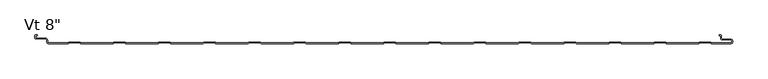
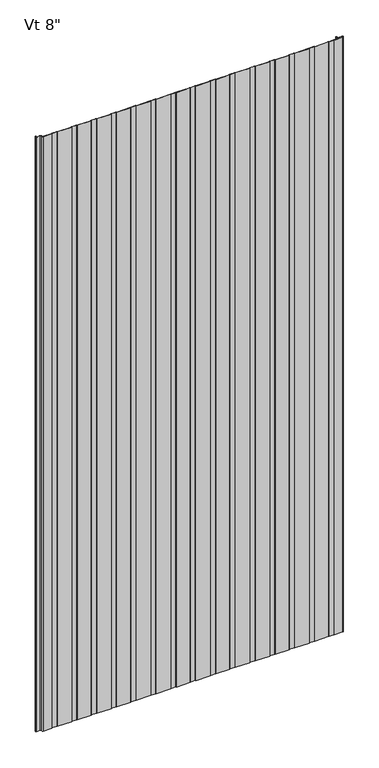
"""IFC4 building model written with IfcOpenShell, lengths in millimetres: plate geometry."""

from ifc_helpers import new_model, si_unit, frame, origin, place, context, project, spatial, polyline, circle_curve, source, transform, mapped, element, save
from ifc_brep_helpers import plane_surface, cylinder_surface, revolved_surface, advanced_brep


def plate_3660ced9(model_context):
    return source(origin(), model_context, "Body", "AdvancedBrep", [
        advanced_brep(
        [(390.6883592, -203.2, 2400.0), (445.2678137, -203.2, 2400.0), (446.3403385, -202.0088405, 2400.0), (465.2384546, -202.0088405, 2400.0), (466.3109794, -203.2, 2400.0), (520.890434, -203.2, 2400.0), (521.9629588, -202.0088405, 2400.0), (540.8610749, -202.0088405, 2400.0), (541.9335958, -203.1999956, 2400.0), (574.5475652, -203.1999956, 2400.0), (577.5248337, -200.2227271, 2400.0), (577.5248337, -199.1806285, 2400.0), (574.5475652, -196.20336, 2400.0), (560.3591801, -196.20336, 2400.0), (558.7713036, -194.6154834, 2400.0), (558.7713036, -190.2950653, 2400.0), (557.1304042, -188.7065979, 2400.0), (554.7857432, -188.7065979, 2400.0), (554.7857432, -189.7060718, 2400.0), (557.1628365, -189.7060718, 2400.0), (557.7713037, -190.2950653, 2400.0), (557.7713037, -194.6154834, 2400.0), (560.3591801, -197.20336, 2400.0), (574.5475652, -197.20336, 2400.0), (576.5248337, -199.1806285, 2400.0), (576.5248337, -200.2227271, 2400.0), (574.5475652, -202.1999956, 2400.0), (542.3760351, -202.1999956, 2400.0), (541.3035142, -201.0088405, 2400.0), (521.5205195, -201.0088405, 2400.0), (520.4479947, -202.2, 2400.0), (466.7534187, -202.2, 2400.0), (465.6808939, -201.0088405, 2400.0), (445.8978992, -201.0088405, 2400.0), (444.8253744, -202.2, 2400.0), (391.1307985, -202.2, 2400.0), (390.0582736, -201.0088405, 2400.0), (370.275279, -201.0088405, 2400.0), (369.2027541, -202.2, 2400.0), (315.5081782, -202.2, 2400.0), (314.4356534, -201.0088405, 2400.0), (294.6526587, -201.0088405, 2400.0), (293.5801339, -202.2, 2400.0), (239.885558, -202.2, 2400.0), (238.8130331, -201.0088405, 2400.0), (219.0300384, -201.0088405, 2400.0), (217.9575136, -202.2, 2400.0), (164.2629377, -202.2, 2400.0), (163.1904129, -201.0088405, 2400.0), (143.4074182, -201.0088405, 2400.0), (142.3348933, -202.2, 2400.0), (88.6403174, -202.2, 2400.0), (87.5677926, -201.0088405, 2400.0), (67.7847979, -201.0088405, 2400.0), (66.7122731, -202.2, 2400.0), (13.0176972, -202.2, 2400.0), (11.9451723, -201.0088405, 2400.0), (-7.8378224, -201.0088405, 2400.0), (-8.9103472, -202.2, 2400.0), (-62.6049231, -202.2, 2400.0), (-63.6774479, -201.0088405, 2400.0), (-83.4604426, -201.0088405, 2400.0), (-84.5329675, -202.2, 2400.0), (-138.2275434, -202.2, 2400.0), (-139.3000682, -201.0088405, 2400.0), (-159.0830629, -201.0088405, 2400.0), (-160.1555877, -202.2, 2400.0), (-213.8501636, -202.2, 2400.0), (-214.9226885, -201.0088405, 2400.0), (-234.7056831, -201.0088405, 2400.0), (-235.778208, -202.2, 2400.0), (-289.4727839, -202.2, 2400.0), (-290.5453087, -201.0088405, 2400.0), (-310.3283034, -201.0088405, 2400.0), (-311.4008282, -202.2, 2400.0), (-365.0954042, -202.2, 2400.0), (-366.167929, -201.0088405, 2400.0), (-385.9509237, -201.0088405, 2400.0), (-387.0234485, -202.2, 2400.0), (-440.7180244, -202.2, 2400.0), (-441.7905493, -201.0088405, 2400.0), (-461.5735439, -201.0088405, 2400.0), (-462.6460688, -202.2, 2400.0), (-516.3406447, -202.2, 2400.0), (-517.4131695, -201.0088405, 2400.0), (-537.1961642, -201.0088405, 2400.0), (-538.268689, -202.2, 2400.0), (-570.43528, -202.2, 2400.0), (-572.4125474, -200.2227096, 2400.0), (-572.4125474, -197.9308258, 2400.0), (-576.3898159, -193.9535573, 2400.0), (-591.9862419, -193.9535573, 2400.0), (-592.5741185, -193.3656807, 2400.0), (-592.5741185, -190.294132, 2400.0), (-591.9862419, -189.7062555, 2400.0), (-589.6312064, -189.7062555, 2400.0), (-589.6312064, -188.7062555, 2400.0), (-591.9862419, -188.7062555, 2400.0), (-593.5741185, -190.294132, 2400.0), (-593.5741185, -193.3656807, 2400.0), (-591.9862419, -194.9535573, 2400.0), (-576.3898159, -194.9535573, 2400.0), (-573.4125474, -197.9308258, 2400.0), (-573.4125474, -200.2227096, 2400.0), (-570.4352807, -203.1999782, 2400.0), (-537.8262497, -203.2, 2400.0), (-536.7537249, -202.0088405, 2400.0), (-517.8556088, -202.0088405, 2400.0), (-516.783084, -203.2, 2400.0), (-462.2036295, -203.2, 2400.0), (-461.1311046, -202.0088405, 2400.0), (-442.2329886, -202.0088405, 2400.0), (-441.1604637, -203.2, 2400.0), (-386.5810092, -203.2, 2400.0), (-385.5084844, -202.0088405, 2400.0), (-366.6103683, -202.0088405, 2400.0), (-365.5378435, -203.2, 2400.0), (-310.9583889, -203.2, 2400.0), (-309.8858641, -202.0088405, 2400.0), (-290.987748, -202.0088405, 2400.0), (-289.9152232, -203.2, 2400.0), (-235.3357687, -203.2, 2400.0), (-234.2632438, -202.0088405, 2400.0), (-215.3651278, -202.0088405, 2400.0), (-214.2926029, -203.2, 2400.0), (-159.7131484, -203.2, 2400.0), (-158.6406236, -202.0088405, 2400.0), (-139.7425075, -202.0088405, 2400.0), (-138.6699827, -203.2, 2400.0), (-84.0905281, -203.2, 2400.0), (-83.0180033, -202.0088405, 2400.0), (-64.1198873, -202.0088405, 2400.0), (-63.0473624, -203.2, 2400.0), (-8.4679079, -203.2, 2400.0), (-7.395383, -202.0088405, 2400.0), (11.502733, -202.0088405, 2400.0), (12.5752578, -203.2, 2400.0), (67.1547124, -203.2, 2400.0), (68.2272372, -202.0088405, 2400.0), (87.1253533, -202.0088405, 2400.0), (88.1978781, -203.2, 2400.0), (142.7773327, -203.2, 2400.0), (143.8498575, -202.0088405, 2400.0), (162.7479735, -202.0088405, 2400.0), (163.8204984, -203.2, 2400.0), (218.3999529, -203.2, 2400.0), (219.4724778, -202.0088405, 2400.0), (238.3705938, -202.0088405, 2400.0), (239.4431186, -203.2, 2400.0), (294.0225732, -203.2, 2400.0), (295.095098, -202.0088405, 2400.0), (313.9932141, -202.0088405, 2400.0), (315.0657389, -203.2, 2400.0), (369.6451934, -203.2, 2400.0), (370.7177183, -202.0088405, 2400.0), (389.6158343, -202.0088405, 2400.0), (390.6883592, -203.2, 0.0), (389.6158343, -202.0088405, 0.0), (370.7177183, -202.0088405, 0.0), (369.6451934, -203.2, 0.0), (315.0657389, -203.2, 0.0), (313.9932141, -202.0088405, 0.0), (295.095098, -202.0088405, 0.0), (294.0225732, -203.2, 0.0), (239.4431186, -203.2, 0.0), (238.3705938, -202.0088405, 0.0), (219.4724778, -202.0088405, 0.0), (218.3999529, -203.2, 0.0), (163.8204984, -203.2, 0.0), (162.7479735, -202.0088405, 0.0), (143.8498575, -202.0088405, 0.0), (142.7773327, -203.2, 0.0), (88.1978781, -203.2, 0.0), (87.1253533, -202.0088405, 0.0), (68.2272372, -202.0088405, 0.0), (67.1547124, -203.2, 0.0), (12.5752578, -203.2, 0.0), (11.502733, -202.0088405, 0.0), (-7.395383, -202.0088405, 0.0), (-8.4679079, -203.2, 0.0), (-63.0473624, -203.2, 0.0), (-64.1198873, -202.0088405, 0.0), (-83.0180033, -202.0088405, 0.0), (-84.0905281, -203.2, 0.0), (-138.6699827, -203.2, 0.0), (-139.7425075, -202.0088405, 0.0), (-158.6406236, -202.0088405, 0.0), (-159.7131484, -203.2, 0.0), (-214.2926029, -203.2, 0.0), (-215.3651278, -202.0088405, 0.0), (-234.2632438, -202.0088405, 0.0), (-235.3357687, -203.2, 0.0), (-289.9152232, -203.2, 0.0), (-290.987748, -202.0088405, 0.0), (-309.8858641, -202.0088405, 0.0), (-310.9583889, -203.2, 0.0), (-365.5378435, -203.2, 0.0), (-366.6103683, -202.0088405, 0.0), (-385.5084844, -202.0088405, 0.0), (-386.5810092, -203.2, 0.0), (-441.1604637, -203.2, 0.0), (-442.2329886, -202.0088405, 0.0), (-461.1311046, -202.0088405, 0.0), (-462.2036295, -203.2, 0.0), (-516.783084, -203.2, 0.0), (-517.8556088, -202.0088405, 0.0), (-536.7537249, -202.0088405, 0.0), (-537.8262497, -203.2, 0.0), (-570.4352807, -203.2, 0.0), (-573.4125474, -200.2227096, 0.0), (-573.4125474, -197.9308258, 0.0), (-576.3898159, -194.9535573, 0.0), (-591.9862419, -194.9535573, 0.0), (-593.5741185, -193.3656807, 0.0), (-593.5741185, -190.294132, 0.0), (-591.9862419, -188.7062555, 0.0), (-589.6312064, -188.7062555, 0.0), (-589.6312064, -189.7062555, 0.0), (-591.9862419, -189.7062555, 0.0), (-592.5741185, -190.294132, 0.0), (-592.5741185, -193.3656807, 0.0), (-591.9862419, -193.9535573, 0.0), (-576.3898159, -193.9535573, 0.0), (-572.4125474, -197.9308258, 0.0), (-572.4125474, -200.2227096, 0.0), (-570.43528, -202.1999782, 0.0), (-538.268689, -202.2, 0.0), (-537.1961642, -201.0088405, 0.0), (-517.4131695, -201.0088405, 0.0), (-516.3406447, -202.2, 0.0), (-462.6460688, -202.2, 0.0), (-461.5735439, -201.0088405, 0.0), (-441.7905493, -201.0088405, 0.0), (-440.7180244, -202.2, 0.0), (-387.0234485, -202.2, 0.0), (-385.9509237, -201.0088405, 0.0), (-366.167929, -201.0088405, 0.0), (-365.0954042, -202.2, 0.0), (-311.4008282, -202.2, 0.0), (-310.3283034, -201.0088405, 0.0), (-290.5453087, -201.0088405, 0.0), (-289.4727839, -202.2, 0.0), (-235.778208, -202.2, 0.0), (-234.7056831, -201.0088405, 0.0), (-214.9226885, -201.0088405, 0.0), (-213.8501636, -202.2, 0.0), (-160.1555877, -202.2, 0.0), (-159.0830629, -201.0088405, 0.0), (-139.3000682, -201.0088405, 0.0), (-138.2275434, -202.2, 0.0), (-84.5329675, -202.2, 0.0), (-83.4604426, -201.0088405, 0.0), (-63.6774479, -201.0088405, 0.0), (-62.6049231, -202.2, 0.0), (-8.9103472, -202.2, 0.0), (-7.8378224, -201.0088405, 0.0), (11.9451723, -201.0088405, 0.0), (13.0176972, -202.2, 0.0), (66.7122731, -202.2, 0.0), (67.7847979, -201.0088405, 0.0), (87.5677926, -201.0088405, 0.0), (88.6403174, -202.2, 0.0), (142.3348933, -202.2, 0.0), (143.4074182, -201.0088405, 0.0), (163.1904129, -201.0088405, 0.0), (164.2629377, -202.2, 0.0), (217.9575136, -202.2, 0.0), (219.0300384, -201.0088405, 0.0), (238.8130331, -201.0088405, 0.0), (239.885558, -202.2, 0.0), (293.5801339, -202.2, 0.0), (294.6526587, -201.0088405, 0.0), (314.4356534, -201.0088405, 0.0), (315.5081782, -202.2, 0.0), (369.2027541, -202.2, 0.0), (370.275279, -201.0088405, 0.0), (390.0582736, -201.0088405, 0.0), (391.1307985, -202.2, 0.0), (444.8253744, -202.2, 0.0), (445.8978992, -201.0088405, 0.0), (465.6808939, -201.0088405, 0.0), (466.7534187, -202.2, 0.0), (520.4479947, -202.2, 0.0), (521.5205195, -201.0088405, 0.0), (541.3035142, -201.0088405, 0.0), (542.3760351, -202.1999956, 0.0), (574.5475652, -202.1999956, 0.0), (576.5248337, -200.2227271, 0.0), (576.5248337, -199.1806285, 0.0), (574.5475652, -197.20336, 0.0), (560.3591801, -197.20336, 0.0), (557.7713036, -194.6154834, 0.0), (557.7713037, -190.2950653, 0.0), (557.1628365, -189.7060718, 0.0), (554.7857432, -189.7060718, 0.0), (554.7857432, -188.7065979, 0.0), (557.1304042, -188.7065979, 0.0), (558.7713037, -190.2950653, 0.0), (558.7713036, -194.6154834, 0.0), (560.3591801, -196.20336, 0.0), (574.5475652, -196.20336, 0.0), (577.5248337, -199.1806285, 0.0), (577.5248337, -200.2227271, 0.0), (574.5475652, -203.1999956, 0.0), (541.9335958, -203.1999956, 0.0), (540.8610749, -202.0088405, 0.0), (521.9629588, -202.0088405, 0.0), (520.890434, -203.2, 0.0), (466.3109794, -203.2, 0.0), (465.2384546, -202.0088405, 0.0), (446.3403385, -202.0088405, 0.0), (445.2678137, -203.2, 0.0)],
        [
            (0, 1),
            (1, 2),
            (2, 3),
            (3, 4),
            (4, 5),
            (5, 6),
            (6, 7),
            (7, 8),
            (8, 9),
            (9, 10, circle_curve(frame((574.5475652, -200.2227271, 2400.0), z_axis=(0.0, 0.0, 1.0), x_axis=(-1.0, 0.0, 0.0)), 2.9772685)),
            (10, 11),
            (11, 12, circle_curve(frame((574.5475652, -199.1806285, 2400.0), z_axis=(0.0, 0.0, 1.0), x_axis=(-1.0, 0.0, 0.0)), 2.9772685)),
            (12, 13),
            (13, 14, circle_curve(frame((560.3591801, -194.6154834, 2400.0), z_axis=(0.0, 0.0, -1.0), x_axis=(-1.0, 0.0, 0.0)), 1.5878765)),
            (14, 15),
            (15, 16, circle_curve(frame((557.1819985, -190.2950653, 2400.0), z_axis=(0.0, 0.0, 1.0), x_axis=(-1.0, 0.0, 0.0)), 1.5893052)),
            (16, 17),
            (17, 18),
            (18, 19),
            (19, 20, circle_curve(frame((557.1819985, -190.2950653, 2400.0), z_axis=(0.0, 0.0, -1.0), x_axis=(-1.0, 0.0, 0.0)), 0.5893052)),
            (20, 21),
            (21, 22, circle_curve(frame((560.3591801, -194.6154834, 2400.0), z_axis=(0.0, 0.0, 1.0), x_axis=(-1.0, 0.0, 0.0)), 2.5878765)),
            (22, 23),
            (23, 24, circle_curve(frame((574.5475652, -199.1806285, 2400.0), z_axis=(0.0, 0.0, -1.0), x_axis=(-1.0, 0.0, 0.0)), 1.9772685)),
            (24, 25),
            (25, 26, circle_curve(frame((574.5475652, -200.2227271, 2400.0), z_axis=(0.0, 0.0, -1.0), x_axis=(-1.0, 0.0, 0.0)), 1.9772685)),
            (26, 27),
            (27, 28),
            (28, 29),
            (29, 30),
            (30, 31),
            (31, 32),
            (32, 33),
            (33, 34),
            (34, 35),
            (35, 36),
            (36, 37),
            (37, 38),
            (38, 39),
            (39, 40),
            (40, 41),
            (41, 42),
            (42, 43),
            (43, 44),
            (44, 45),
            (45, 46),
            (46, 47),
            (47, 48),
            (48, 49),
            (49, 50),
            (50, 51),
            (51, 52),
            (52, 53),
            (53, 54),
            (54, 55),
            (55, 56),
            (56, 57),
            (57, 58),
            (58, 59),
            (59, 60),
            (60, 61),
            (61, 62),
            (62, 63),
            (63, 64),
            (64, 65),
            (65, 66),
            (66, 67),
            (67, 68),
            (68, 69),
            (69, 70),
            (70, 71),
            (71, 72),
            (72, 73),
            (73, 74),
            (74, 75),
            (75, 76),
            (76, 77),
            (77, 78),
            (78, 79),
            (79, 80),
            (80, 81),
            (81, 82),
            (82, 83),
            (83, 84),
            (84, 85),
            (85, 86),
            (86, 87),
            (87, 88, circle_curve(frame((-570.4352788, -200.2227096, 2400.0), z_axis=(0.0, 0.0, -1.0), x_axis=(-1.0, 0.0, 0.0)), 1.9772685)),
            (88, 89),
            (89, 90, circle_curve(frame((-576.3898159, -197.9308258, 2400.0), z_axis=(0.0, 0.0, 1.0), x_axis=(-1.0, 0.0, 0.0)), 3.9772685)),
            (90, 91),
            (91, 92, circle_curve(frame((-591.9862419, -193.3656807, 2400.0), z_axis=(0.0, 0.0, -1.0), x_axis=(-1.0, 0.0, 0.0)), 0.5878765)),
            (92, 93),
            (93, 94, circle_curve(frame((-591.9862419, -190.294132, 2400.0), z_axis=(0.0, 0.0, -1.0), x_axis=(-1.0, 0.0, 0.0)), 0.5878765)),
            (94, 95),
            (95, 96),
            (96, 97),
            (97, 98, circle_curve(frame((-591.9862419, -190.294132, 2400.0), z_axis=(0.0, 0.0, 1.0), x_axis=(-1.0, 0.0, 0.0)), 1.5878765)),
            (98, 99),
            (99, 100, circle_curve(frame((-591.9862419, -193.3656807, 2400.0), z_axis=(0.0, 0.0, 1.0), x_axis=(-1.0, 0.0, 0.0)), 1.5878765)),
            (100, 101),
            (101, 102, circle_curve(frame((-576.3898159, -197.9308258, 2400.0), z_axis=(0.0, 0.0, -1.0), x_axis=(-1.0, 0.0, 0.0)), 2.9772685)),
            (102, 103),
            (103, 104, circle_curve(frame((-570.4352789, -200.2227096, 2400.0), z_axis=(0.0, 0.0, 1.0), x_axis=(-1.0, 0.0, 0.0)), 2.9772685)),
            (104, 105),
            (105, 106),
            (106, 107),
            (107, 108),
            (108, 109),
            (109, 110),
            (110, 111),
            (111, 112),
            (112, 113),
            (113, 114),
            (114, 115),
            (115, 116),
            (116, 117),
            (117, 118),
            (118, 119),
            (119, 120),
            (120, 121),
            (121, 122),
            (122, 123),
            (123, 124),
            (124, 125),
            (125, 126),
            (126, 127),
            (127, 128),
            (128, 129),
            (129, 130),
            (130, 131),
            (131, 132),
            (132, 133),
            (133, 134),
            (134, 135),
            (135, 136),
            (136, 137),
            (137, 138),
            (138, 139),
            (139, 140),
            (140, 141),
            (141, 142),
            (142, 143),
            (143, 144),
            (144, 145),
            (145, 146),
            (146, 147),
            (147, 148),
            (148, 149),
            (149, 150),
            (150, 151),
            (151, 152),
            (152, 153),
            (153, 154),
            (154, 155),
            (155, 0),
            (156, 157),
            (157, 158),
            (158, 159),
            (159, 160),
            (160, 161),
            (161, 162),
            (162, 163),
            (163, 164),
            (164, 165),
            (165, 166),
            (166, 167),
            (167, 168),
            (168, 169),
            (169, 170),
            (170, 171),
            (171, 172),
            (172, 173),
            (173, 174),
            (174, 175),
            (175, 176),
            (176, 177),
            (177, 178),
            (178, 179),
            (179, 180),
            (180, 181),
            (181, 182),
            (182, 183),
            (183, 184),
            (184, 185),
            (185, 186),
            (186, 187),
            (187, 188),
            (188, 189),
            (189, 190),
            (190, 191),
            (191, 192),
            (192, 193),
            (193, 194),
            (194, 195),
            (195, 196),
            (196, 197),
            (197, 198),
            (198, 199),
            (199, 200),
            (200, 201),
            (201, 202),
            (202, 203),
            (203, 204),
            (204, 205),
            (205, 206),
            (206, 207),
            (207, 208),
            (208, 209, circle_curve(frame((-570.4352789, -200.2227096, 0.0), z_axis=(0.0, 0.0, -1.0), x_axis=(-1.0, 0.0, 0.0)), 2.9772685)),
            (209, 210),
            (210, 211, circle_curve(frame((-576.3898159, -197.9308258, 0.0), z_axis=(0.0, 0.0, 1.0), x_axis=(-1.0, 0.0, 0.0)), 2.9772685)),
            (211, 212),
            (212, 213, circle_curve(frame((-591.9862419, -193.3656807, 0.0), z_axis=(0.0, 0.0, -1.0), x_axis=(-1.0, 0.0, 0.0)), 1.5878765)),
            (213, 214),
            (214, 215, circle_curve(frame((-591.9862419, -190.294132, 0.0), z_axis=(0.0, 0.0, -1.0), x_axis=(-1.0, 0.0, 0.0)), 1.5878765)),
            (215, 216),
            (216, 217),
            (217, 218),
            (218, 219, circle_curve(frame((-591.9862419, -190.294132, 0.0), z_axis=(0.0, 0.0, 1.0), x_axis=(-1.0, 0.0, 0.0)), 0.5878765)),
            (219, 220),
            (220, 221, circle_curve(frame((-591.9862419, -193.3656807, 0.0), z_axis=(0.0, 0.0, 1.0), x_axis=(-1.0, 0.0, 0.0)), 0.5878765)),
            (221, 222),
            (222, 223, circle_curve(frame((-576.3898159, -197.9308258, 0.0), z_axis=(0.0, 0.0, -1.0), x_axis=(-1.0, 0.0, 0.0)), 3.9772685)),
            (223, 224),
            (224, 225, circle_curve(frame((-570.4352788, -200.2227096, 0.0), z_axis=(0.0, 0.0, 1.0), x_axis=(-1.0, 0.0, 0.0)), 1.9772685)),
            (225, 226),
            (226, 227),
            (227, 228),
            (228, 229),
            (229, 230),
            (230, 231),
            (231, 232),
            (232, 233),
            (233, 234),
            (234, 235),
            (235, 236),
            (236, 237),
            (237, 238),
            (238, 239),
            (239, 240),
            (240, 241),
            (241, 242),
            (242, 243),
            (243, 244),
            (244, 245),
            (245, 246),
            (246, 247),
            (247, 248),
            (248, 249),
            (249, 250),
            (250, 251),
            (251, 252),
            (252, 253),
            (253, 254),
            (254, 255),
            (255, 256),
            (256, 257),
            (257, 258),
            (258, 259),
            (259, 260),
            (260, 261),
            (261, 262),
            (262, 263),
            (263, 264),
            (264, 265),
            (265, 266),
            (266, 267),
            (267, 268),
            (268, 269),
            (269, 270),
            (270, 271),
            (271, 272),
            (272, 273),
            (273, 274),
            (274, 275),
            (275, 276),
            (276, 277),
            (277, 278),
            (278, 279),
            (279, 280),
            (280, 281),
            (281, 282),
            (282, 283),
            (283, 284),
            (284, 285),
            (285, 286),
            (286, 287, circle_curve(frame((574.5475652, -200.2227271, 0.0), z_axis=(0.0, 0.0, 1.0), x_axis=(-1.0, 0.0, 0.0)), 1.9772685)),
            (287, 288),
            (288, 289, circle_curve(frame((574.5475652, -199.1806285, 0.0), z_axis=(0.0, 0.0, 1.0), x_axis=(-1.0, 0.0, 0.0)), 1.9772685)),
            (289, 290),
            (290, 291, circle_curve(frame((560.3591801, -194.6154834, 0.0), z_axis=(0.0, 0.0, -1.0), x_axis=(-1.0, 0.0, 0.0)), 2.5878765)),
            (291, 292),
            (292, 293, circle_curve(frame((557.1819985, -190.2950653, 0.0), z_axis=(0.0, 0.0, 1.0), x_axis=(-1.0, 0.0, 0.0)), 0.5893052)),
            (293, 294),
            (294, 295),
            (295, 296),
            (296, 297, circle_curve(frame((557.1819985, -190.2950653, 0.0), z_axis=(0.0, 0.0, -1.0), x_axis=(-1.0, 0.0, 0.0)), 1.5893052)),
            (297, 298),
            (298, 299, circle_curve(frame((560.3591801, -194.6154834, 0.0), z_axis=(0.0, 0.0, 1.0), x_axis=(-1.0, 0.0, 0.0)), 1.5878765)),
            (299, 300),
            (300, 301, circle_curve(frame((574.5475652, -199.1806285, 0.0), z_axis=(0.0, 0.0, -1.0), x_axis=(-1.0, 0.0, 0.0)), 2.9772685)),
            (301, 302),
            (302, 303, circle_curve(frame((574.5475652, -200.2227271, 0.0), z_axis=(0.0, 0.0, -1.0), x_axis=(-1.0, 0.0, 0.0)), 2.9772685)),
            (303, 304),
            (304, 305),
            (305, 306),
            (306, 307),
            (307, 308),
            (308, 309),
            (309, 310),
            (310, 311),
            (311, 156),
            (0, 156),
            (311, 1),
            (34, 278),
            (277, 35),
            (64, 248),
            (247, 65),
            (124, 188),
            (187, 125),
            (66, 246),
            (245, 67),
            (123, 189),
            (244, 68),
            (121, 191),
            (190, 122),
            (69, 243),
            (242, 70),
            (120, 192),
            (241, 71),
            (119, 193),
            (240, 72),
            (137, 175),
            (174, 138),
            (53, 259),
            (258, 54),
            (173, 139),
            (52, 260),
            (136, 176),
            (257, 55),
            (135, 177),
            (256, 56),
            (133, 179),
            (178, 134),
            (57, 255),
            (254, 58),
            (132, 180),
            (253, 59),
            (131, 181),
            (252, 60),
            (129, 183),
            (182, 130),
            (61, 251),
            (250, 62),
            (128, 184),
            (249, 63),
            (127, 185),
            (186, 126),
            (24, 288),
            (287, 25),
            (10, 302),
            (301, 11),
            (286, 26),
            (103, 209),
            (208, 104),
            (207, 105),
            (91, 221),
            (220, 92),
            (4, 308),
            (307, 5),
            (30, 282),
            (281, 31),
            (7, 305),
            (304, 8),
            (27, 285),
            (284, 28),
            (306, 6),
            (29, 283),
            (23, 289),
            (22, 290),
            (21, 291),
            (20, 292),
            (19, 293),
            (18, 294),
            (17, 295),
            (16, 296),
            (15, 297),
            (14, 298),
            (13, 299),
            (12, 300),
            (9, 303),
            (101, 211),
            (210, 102),
            (99, 213),
            (212, 100),
            (97, 215),
            (214, 98),
            (95, 217),
            (216, 96),
            (93, 219),
            (218, 94),
            (90, 222),
            (88, 224),
            (223, 89),
            (86, 226),
            (225, 87),
            (106, 206),
            (205, 107),
            (85, 227),
            (84, 228),
            (204, 108),
            (203, 109),
            (82, 230),
            (229, 83),
            (110, 202),
            (201, 111),
            (81, 231),
            (80, 232),
            (200, 112),
            (199, 113),
            (78, 234),
            (233, 79),
            (114, 198),
            (197, 115),
            (77, 235),
            (76, 236),
            (196, 116),
            (195, 117),
            (74, 238),
            (237, 75),
            (118, 194),
            (73, 239),
            (172, 140),
            (171, 141),
            (50, 262),
            (261, 51),
            (142, 170),
            (169, 143),
            (49, 263),
            (48, 264),
            (168, 144),
            (167, 145),
            (46, 266),
            (265, 47),
            (146, 166),
            (165, 147),
            (45, 267),
            (44, 268),
            (164, 148),
            (163, 149),
            (42, 270),
            (269, 43),
            (150, 162),
            (161, 151),
            (41, 271),
            (40, 272),
            (160, 152),
            (159, 153),
            (38, 274),
            (273, 39),
            (154, 158),
            (157, 155),
            (37, 275),
            (36, 276),
            (2, 310),
            (309, 3),
            (32, 280),
            (279, 33),
        ],
        [
            plane_surface(frame((0.0, -203.2, 2400.0), z_axis=(0.0, 0.0, 1.0), x_axis=(0.0, -1.0, 0.0))),
            plane_surface(frame((0.0, -203.2, 0.0), z_axis=(0.0, 0.0, -1.0), x_axis=(0.0, -1.0, 0.0))),
            plane_surface(frame((445.2678137, -203.2, 2400.0), z_axis=(0.0, -1.0, 0.0), x_axis=(0.0, 0.0, -1.0))),
            plane_surface(frame((391.1307985, -202.2, 2400.0), z_axis=(0.0, 1.0, 0.0), x_axis=(0.0, 0.0, -1.0))),
            plane_surface(frame((-159.0830629, -201.0088405, 2400.0), z_axis=(0.0, 1.0, 0.0), x_axis=(0.0, 0.0, -1.0))),
            plane_surface(frame((-159.7131484, -203.2, 2400.0), z_axis=(0.0, -1.0, 0.0), x_axis=(0.0, 0.0, -1.0))),
            plane_surface(frame((-213.8501636, -202.2, 2400.0), z_axis=(0.0, 1.0, 0.0), x_axis=(0.0, 0.0, -1.0))),
            plane_surface(frame((-214.2926029, -203.2, 2400.0), z_axis=(-0.7431448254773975, -0.6691306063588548, 0.0), x_axis=(0.0, 0.0, -1.0))),
            plane_surface(frame((-214.9226885, -201.0088405, 2400.0), z_axis=(0.7431448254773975, 0.6691306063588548, 0.0), x_axis=(0.0, 0.0, -1.0))),
            plane_surface(frame((-234.2632438, -202.0088405, 2400.0), z_axis=(0.7431448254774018, -0.66913060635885, 0.0), x_axis=(0.0, 0.0, -1.0))),
            plane_surface(frame((-235.778208, -202.2, 2400.0), z_axis=(-0.7431448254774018, 0.66913060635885, 0.0), x_axis=(0.0, 0.0, -1.0))),
            plane_surface(frame((-215.3651278, -202.0088405, 2400.0), z_axis=(0.0, -1.0, 0.0), x_axis=(0.0, 0.0, -1.0))),
            plane_surface(frame((-234.7056831, -201.0088405, 2400.0), z_axis=(0.0, 1.0, 0.0), x_axis=(0.0, 0.0, -1.0))),
            plane_surface(frame((-235.3357687, -203.2, 2400.0), z_axis=(0.0, -1.0, 0.0), x_axis=(0.0, 0.0, -1.0))),
            plane_surface(frame((-289.4727839, -202.2, 2400.0), z_axis=(0.0, 1.0, 0.0), x_axis=(0.0, 0.0, -1.0))),
            plane_surface(frame((-289.9152232, -203.2, 2400.0), z_axis=(-0.7431448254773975, -0.6691306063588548, 0.0), x_axis=(0.0, 0.0, -1.0))),
            plane_surface(frame((-290.5453087, -201.0088405, 2400.0), z_axis=(0.7431448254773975, 0.6691306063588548, 0.0), x_axis=(0.0, 0.0, -1.0))),
            plane_surface(frame((68.2272372, -202.0088405, 2400.0), z_axis=(0.7431448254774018, -0.66913060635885, 0.0), x_axis=(0.0, 0.0, -1.0))),
            plane_surface(frame((66.7122731, -202.2, 2400.0), z_axis=(-0.7431448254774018, 0.66913060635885, 0.0), x_axis=(0.0, 0.0, -1.0))),
            plane_surface(frame((87.1253533, -202.0088405, 2400.0), z_axis=(0.0, -1.0, 0.0), x_axis=(0.0, 0.0, -1.0))),
            plane_surface(frame((67.7847979, -201.0088405, 2400.0), z_axis=(0.0, 1.0, 0.0), x_axis=(0.0, 0.0, -1.0))),
            plane_surface(frame((67.1547124, -203.2, 2400.0), z_axis=(0.0, -1.0, 0.0), x_axis=(0.0, 0.0, -1.0))),
            plane_surface(frame((13.0176972, -202.2, 2400.0), z_axis=(0.0, 1.0, 0.0), x_axis=(0.0, 0.0, -1.0))),
            plane_surface(frame((12.5752578, -203.2, 2400.0), z_axis=(-0.7431448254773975, -0.6691306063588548, 0.0), x_axis=(0.0, 0.0, -1.0))),
            plane_surface(frame((11.9451723, -201.0088405, 2400.0), z_axis=(0.7431448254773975, 0.6691306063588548, 0.0), x_axis=(0.0, 0.0, -1.0))),
            plane_surface(frame((-7.395383, -202.0088405, 2400.0), z_axis=(0.7431448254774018, -0.66913060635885, 0.0), x_axis=(0.0, 0.0, -1.0))),
            plane_surface(frame((-8.9103472, -202.2, 2400.0), z_axis=(-0.7431448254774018, 0.66913060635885, 0.0), x_axis=(0.0, 0.0, -1.0))),
            plane_surface(frame((11.502733, -202.0088405, 2400.0), z_axis=(0.0, -1.0, 0.0), x_axis=(0.0, 0.0, -1.0))),
            plane_surface(frame((-7.8378224, -201.0088405, 2400.0), z_axis=(0.0, 1.0, 0.0), x_axis=(0.0, 0.0, -1.0))),
            plane_surface(frame((-8.4679079, -203.2, 2400.0), z_axis=(0.0, -1.0, 0.0), x_axis=(0.0, 0.0, -1.0))),
            plane_surface(frame((-62.6049231, -202.2, 2400.0), z_axis=(0.0, 1.0, 0.0), x_axis=(0.0, 0.0, -1.0))),
            plane_surface(frame((-63.0473624, -203.2, 2400.0), z_axis=(-0.7431448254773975, -0.6691306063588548, 0.0), x_axis=(0.0, 0.0, -1.0))),
            plane_surface(frame((-63.6774479, -201.0088405, 2400.0), z_axis=(0.7431448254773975, 0.6691306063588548, 0.0), x_axis=(0.0, 0.0, -1.0))),
            plane_surface(frame((-83.0180033, -202.0088405, 2400.0), z_axis=(0.7431448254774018, -0.66913060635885, 0.0), x_axis=(0.0, 0.0, -1.0))),
            plane_surface(frame((-84.5329675, -202.2, 2400.0), z_axis=(-0.7431448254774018, 0.66913060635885, 0.0), x_axis=(0.0, 0.0, -1.0))),
            plane_surface(frame((-64.1198873, -202.0088405, 2400.0), z_axis=(0.0, -1.0, 0.0), x_axis=(0.0, 0.0, -1.0))),
            plane_surface(frame((-83.4604426, -201.0088405, 2400.0), z_axis=(0.0, 1.0, 0.0), x_axis=(0.0, 0.0, -1.0))),
            plane_surface(frame((-84.0905281, -203.2, 2400.0), z_axis=(0.0, -1.0, 0.0), x_axis=(0.0, 0.0, -1.0))),
            plane_surface(frame((-138.2275434, -202.2, 2400.0), z_axis=(0.0, 1.0, 0.0), x_axis=(0.0, 0.0, -1.0))),
            plane_surface(frame((-138.6699827, -203.2, 2400.0), z_axis=(-0.7431448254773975, -0.6691306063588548, 0.0), x_axis=(0.0, 0.0, -1.0))),
            plane_surface(frame((-139.3000682, -201.0088405, 2400.0), z_axis=(0.7431448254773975, 0.6691306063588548, 0.0), x_axis=(0.0, 0.0, -1.0))),
            plane_surface(frame((-158.6406236, -202.0088405, 2400.0), z_axis=(0.7431448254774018, -0.66913060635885, 0.0), x_axis=(0.0, 0.0, -1.0))),
            plane_surface(frame((-160.1555877, -202.2, 2400.0), z_axis=(-0.7431448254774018, 0.66913060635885, 0.0), x_axis=(0.0, 0.0, -1.0))),
            plane_surface(frame((-139.7425075, -202.0088405, 2400.0), z_axis=(0.0, -1.0, 0.0), x_axis=(0.0, 0.0, -1.0))),
            plane_surface(frame((576.5248337, -200.2227271, 2400.0), z_axis=(-1.0, 0.0, 0.0), x_axis=(0.0, 0.0, -1.0))),
            plane_surface(frame((577.5248337, -199.1806285, 2400.0), z_axis=(1.0, 0.0, 0.0), x_axis=(0.0, 0.0, -1.0))),
            revolved_surface(polyline([(572.5702967, -200.2227271, 0.0), (572.5702967, -200.2227271, 2400.0)]), (574.5475652, -200.2227271, 2400.0), (0.0, 0.0, -1.0)),
            cylinder_surface(frame((-570.4352789, -200.2227096, 2400.0), z_axis=(0.0, 0.0, 1.0), x_axis=(-1.0, 0.0, 0.0)), 2.9772685),
            plane_surface(frame((-537.8262497, -203.2, 2400.0), z_axis=(0.0, -1.0, 0.0), x_axis=(0.0, 0.0, -1.0))),
            revolved_surface(polyline([(-592.5741184, -193.3656807, 0.0), (-592.5741184, -193.3656807, 2400.0)]), (-591.9862419, -193.3656807, 2400.0), (0.0, 0.0, -1.0)),
            plane_surface(frame((520.890434, -203.2, 2400.0), z_axis=(0.0, -1.0, 0.0), x_axis=(0.0, 0.0, -1.0))),
            plane_surface(frame((466.7534187, -202.2, 2400.0), z_axis=(0.0, 1.0, 0.0), x_axis=(0.0, 0.0, -1.0))),
            plane_surface(frame((541.9335958, -203.1999956, 2400.0), z_axis=(-0.7431448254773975, -0.6691306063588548, 0.0), x_axis=(0.0, 0.0, -1.0))),
            plane_surface(frame((541.3035142, -201.0088405, 2400.0), z_axis=(0.7431448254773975, 0.6691306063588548, 0.0), x_axis=(0.0, 0.0, -1.0))),
            plane_surface(frame((521.9629588, -202.0088405, 2400.0), z_axis=(0.7431448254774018, -0.66913060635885, 0.0), x_axis=(0.0, 0.0, -1.0))),
            plane_surface(frame((520.4479947, -202.2, 2400.0), z_axis=(-0.7431448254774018, 0.66913060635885, 0.0), x_axis=(0.0, 0.0, -1.0))),
            plane_surface(frame((540.8610749, -202.0088405, 2400.0), z_axis=(0.0, -1.0, 0.0), x_axis=(0.0, 0.0, -1.0))),
            plane_surface(frame((521.5205195, -201.0088405, 2400.0), z_axis=(0.0, 1.0, 0.0), x_axis=(0.0, 0.0, -1.0))),
            plane_surface(frame((542.3760351, -202.1999956, 2400.0), z_axis=(0.0, 1.0, 0.0), x_axis=(0.0, 0.0, -1.0))),
            revolved_surface(polyline([(572.5702967, -199.1806285, 0.0), (572.5702967, -199.1806285, 2400.0)]), (574.5475652, -199.1806285, 2400.0), (0.0, 0.0, -1.0)),
            plane_surface(frame((574.5475652, -197.20336, 2400.0), z_axis=(0.0, -1.0, 0.0), x_axis=(0.0, 0.0, -1.0))),
            cylinder_surface(frame((560.3591801, -194.6154834, 2400.0), z_axis=(0.0, 0.0, 1.0), x_axis=(-1.0, 0.0, 0.0)), 2.5878765),
            plane_surface(frame((557.7713037, -194.6154834, 2400.0), z_axis=(-1.0, 0.0, 0.0), x_axis=(0.0, 0.0, -1.0))),
            revolved_surface(polyline([(556.5926933, -190.2950653, 0.0), (556.5926933, -190.2950653, 2400.0)]), (557.1819985, -190.2950653, 2400.0), (0.0, 0.0, -1.0)),
            plane_surface(frame((557.1628365, -189.7060718, 2400.0), z_axis=(0.0, -1.0, 0.0), x_axis=(0.0, 0.0, -1.0))),
            plane_surface(frame((554.7857432, -189.7060718, 2400.0), z_axis=(-1.0, 0.0, 0.0), x_axis=(0.0, 0.0, -1.0))),
            plane_surface(frame((554.7857432, -188.7065979, 2400.0), z_axis=(0.0, 1.0, 0.0), x_axis=(0.0, 0.0, -1.0))),
            cylinder_surface(frame((557.1819985, -190.2950653, 2400.0), z_axis=(0.0, 0.0, 1.0), x_axis=(-1.0, 0.0, 0.0)), 1.5893052),
            plane_surface(frame((558.7713036, -190.2950653, 2400.0), z_axis=(1.0, 0.0, 0.0), x_axis=(0.0, 0.0, -1.0))),
            revolved_surface(polyline([(558.7713036, -194.6154834, 0.0), (558.7713036, -194.6154834, 2400.0)]), (560.3591801, -194.6154834, 2400.0), (0.0, 0.0, -1.0)),
            plane_surface(frame((560.3591801, -196.20336, 2400.0), z_axis=(0.0, 1.0, 0.0), x_axis=(0.0, 0.0, -1.0))),
            cylinder_surface(frame((574.5475652, -199.1806285, 2400.0), z_axis=(0.0, 0.0, 1.0), x_axis=(-1.0, 0.0, 0.0)), 2.9772685),
            cylinder_surface(frame((574.5475652, -200.2227271, 2400.0), z_axis=(0.0, 0.0, 1.0), x_axis=(-1.0, 0.0, 0.0)), 2.9772685),
            plane_surface(frame((574.5475652, -203.1999956, 2400.0), z_axis=(0.0, -1.0, 0.0), x_axis=(0.0, 0.0, -1.0))),
            revolved_surface(polyline([(-579.3670844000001, -197.9308258, 0.0), (-579.3670844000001, -197.9308258, 2400.0)]), (-576.3898159, -197.9308258, 2400.0), (0.0, 0.0, -1.0)),
            cylinder_surface(frame((-591.9862419, -193.3656807, 2400.0), z_axis=(0.0, 0.0, 1.0), x_axis=(-1.0, 0.0, 0.0)), 1.5878765),
            plane_surface(frame((-576.3898159, -194.9535573, 2400.0), z_axis=(0.0, -1.0, 0.0), x_axis=(0.0, 0.0, -1.0))),
            plane_surface(frame((-573.4125474, -200.2227096, 2400.0), z_axis=(-1.0, 0.0, 0.0), x_axis=(0.0, 0.0, -1.0))),
            cylinder_surface(frame((-591.9862419, -190.294132, 2400.0), z_axis=(0.0, 0.0, 1.0), x_axis=(-1.0, 0.0, 0.0)), 1.5878765),
            plane_surface(frame((-589.6312064, -188.7062555, 2400.0), z_axis=(1.0, 0.0, 0.0), x_axis=(0.0, 0.0, -1.0))),
            plane_surface(frame((-591.9862419, -188.7062555, 2400.0), z_axis=(0.0, 1.0, 0.0), x_axis=(0.0, 0.0, -1.0))),
            plane_surface(frame((-593.5741185, -193.3656807, 2400.0), z_axis=(-1.0, 0.0, 0.0), x_axis=(0.0, 0.0, -1.0))),
            revolved_surface(polyline([(-592.5741184, -190.294132, 0.0), (-592.5741184, -190.294132, 2400.0)]), (-591.9862419, -190.294132, 2400.0), (0.0, 0.0, -1.0)),
            plane_surface(frame((-591.9862419, -193.9535573, 2400.0), z_axis=(0.0, 1.0, 0.0), x_axis=(0.0, 0.0, -1.0))),
            plane_surface(frame((-592.5741185, -190.294132, 2400.0), z_axis=(1.0, 0.0, 0.0), x_axis=(0.0, 0.0, -1.0))),
            plane_surface(frame((-589.6312064, -189.7062555, 2400.0), z_axis=(0.0, -1.0, 0.0), x_axis=(0.0, 0.0, -1.0))),
            plane_surface(frame((-572.4125474, -197.9308258, 2400.0), z_axis=(1.0, 0.0, 0.0), x_axis=(0.0, 0.0, -1.0))),
            plane_surface(frame((-570.43528, -202.2, 2400.0), z_axis=(0.0, 1.0, 0.0), x_axis=(0.0, 0.0, -1.0))),
            revolved_surface(polyline([(-572.4125473, -200.2227096, 0.0), (-572.4125473, -200.2227096, 2400.0)]), (-570.4352788, -200.2227096, 2400.0), (0.0, 0.0, -1.0)),
            cylinder_surface(frame((-576.3898159, -197.9308258, 2400.0), z_axis=(0.0, 0.0, 1.0), x_axis=(-1.0, 0.0, 0.0)), 3.9772685),
            plane_surface(frame((-517.8556088, -202.0088405, 2400.0), z_axis=(0.0, -1.0, 0.0), x_axis=(0.0, 0.0, -1.0))),
            plane_surface(frame((-536.7537249, -202.0088405, 2400.0), z_axis=(0.7431448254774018, -0.66913060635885, 0.0), x_axis=(0.0, 0.0, -1.0))),
            plane_surface(frame((-538.268689, -202.2, 2400.0), z_axis=(-0.7431448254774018, 0.66913060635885, 0.0), x_axis=(0.0, 0.0, -1.0))),
            plane_surface(frame((-537.1961642, -201.0088405, 2400.0), z_axis=(0.0, 1.0, 0.0), x_axis=(0.0, 0.0, -1.0))),
            plane_surface(frame((-516.783084, -203.2, 2400.0), z_axis=(-0.7431448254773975, -0.6691306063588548, 0.0), x_axis=(0.0, 0.0, -1.0))),
            plane_surface(frame((-462.2036295, -203.2, 2400.0), z_axis=(0.0, -1.0, 0.0), x_axis=(0.0, 0.0, -1.0))),
            plane_surface(frame((-516.3406447, -202.2, 2400.0), z_axis=(0.0, 1.0, 0.0), x_axis=(0.0, 0.0, -1.0))),
            plane_surface(frame((-517.4131695, -201.0088405, 2400.0), z_axis=(0.7431448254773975, 0.6691306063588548, 0.0), x_axis=(0.0, 0.0, -1.0))),
            plane_surface(frame((-442.2329886, -202.0088405, 2400.0), z_axis=(0.0, -1.0, 0.0), x_axis=(0.0, 0.0, -1.0))),
            plane_surface(frame((-461.1311046, -202.0088405, 2400.0), z_axis=(0.7431448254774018, -0.66913060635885, 0.0), x_axis=(0.0, 0.0, -1.0))),
            plane_surface(frame((-462.6460688, -202.2, 2400.0), z_axis=(-0.7431448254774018, 0.66913060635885, 0.0), x_axis=(0.0, 0.0, -1.0))),
            plane_surface(frame((-461.5735439, -201.0088405, 2400.0), z_axis=(0.0, 1.0, 0.0), x_axis=(0.0, 0.0, -1.0))),
            plane_surface(frame((-441.1604637, -203.2, 2400.0), z_axis=(-0.7431448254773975, -0.6691306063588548, 0.0), x_axis=(0.0, 0.0, -1.0))),
            plane_surface(frame((-386.5810092, -203.2, 2400.0), z_axis=(0.0, -1.0, 0.0), x_axis=(0.0, 0.0, -1.0))),
            plane_surface(frame((-440.7180244, -202.2, 2400.0), z_axis=(0.0, 1.0, 0.0), x_axis=(0.0, 0.0, -1.0))),
            plane_surface(frame((-441.7905493, -201.0088405, 2400.0), z_axis=(0.7431448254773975, 0.6691306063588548, 0.0), x_axis=(0.0, 0.0, -1.0))),
            plane_surface(frame((-366.6103683, -202.0088405, 2400.0), z_axis=(0.0, -1.0, 0.0), x_axis=(0.0, 0.0, -1.0))),
            plane_surface(frame((-385.5084844, -202.0088405, 2400.0), z_axis=(0.7431448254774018, -0.66913060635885, 0.0), x_axis=(0.0, 0.0, -1.0))),
            plane_surface(frame((-387.0234485, -202.2, 2400.0), z_axis=(-0.7431448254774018, 0.66913060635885, 0.0), x_axis=(0.0, 0.0, -1.0))),
            plane_surface(frame((-385.9509237, -201.0088405, 2400.0), z_axis=(0.0, 1.0, 0.0), x_axis=(0.0, 0.0, -1.0))),
            plane_surface(frame((-365.5378435, -203.2, 2400.0), z_axis=(-0.7431448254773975, -0.6691306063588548, 0.0), x_axis=(0.0, 0.0, -1.0))),
            plane_surface(frame((-310.9583889, -203.2, 2400.0), z_axis=(0.0, -1.0, 0.0), x_axis=(0.0, 0.0, -1.0))),
            plane_surface(frame((-365.0954042, -202.2, 2400.0), z_axis=(0.0, 1.0, 0.0), x_axis=(0.0, 0.0, -1.0))),
            plane_surface(frame((-366.167929, -201.0088405, 2400.0), z_axis=(0.7431448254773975, 0.6691306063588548, 0.0), x_axis=(0.0, 0.0, -1.0))),
            plane_surface(frame((-290.987748, -202.0088405, 2400.0), z_axis=(0.0, -1.0, 0.0), x_axis=(0.0, 0.0, -1.0))),
            plane_surface(frame((-309.8858641, -202.0088405, 2400.0), z_axis=(0.7431448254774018, -0.66913060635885, 0.0), x_axis=(0.0, 0.0, -1.0))),
            plane_surface(frame((-311.4008282, -202.2, 2400.0), z_axis=(-0.7431448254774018, 0.66913060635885, 0.0), x_axis=(0.0, 0.0, -1.0))),
            plane_surface(frame((-310.3283034, -201.0088405, 2400.0), z_axis=(0.0, 1.0, 0.0), x_axis=(0.0, 0.0, -1.0))),
            plane_surface(frame((88.1978781, -203.2, 2400.0), z_axis=(-0.7431448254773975, -0.6691306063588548, 0.0), x_axis=(0.0, 0.0, -1.0))),
            plane_surface(frame((142.7773327, -203.2, 2400.0), z_axis=(0.0, -1.0, 0.0), x_axis=(0.0, 0.0, -1.0))),
            plane_surface(frame((88.6403174, -202.2, 2400.0), z_axis=(0.0, 1.0, 0.0), x_axis=(0.0, 0.0, -1.0))),
            plane_surface(frame((87.5677926, -201.0088405, 2400.0), z_axis=(0.7431448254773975, 0.6691306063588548, 0.0), x_axis=(0.0, 0.0, -1.0))),
            plane_surface(frame((162.7479735, -202.0088405, 2400.0), z_axis=(0.0, -1.0, 0.0), x_axis=(0.0, 0.0, -1.0))),
            plane_surface(frame((143.8498575, -202.0088405, 2400.0), z_axis=(0.7431448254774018, -0.66913060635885, 0.0), x_axis=(0.0, 0.0, -1.0))),
            plane_surface(frame((142.3348933, -202.2, 2400.0), z_axis=(-0.7431448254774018, 0.66913060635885, 0.0), x_axis=(0.0, 0.0, -1.0))),
            plane_surface(frame((143.4074182, -201.0088405, 2400.0), z_axis=(0.0, 1.0, 0.0), x_axis=(0.0, 0.0, -1.0))),
            plane_surface(frame((163.8204984, -203.2, 2400.0), z_axis=(-0.7431448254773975, -0.6691306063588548, 0.0), x_axis=(0.0, 0.0, -1.0))),
            plane_surface(frame((218.3999529, -203.2, 2400.0), z_axis=(0.0, -1.0, 0.0), x_axis=(0.0, 0.0, -1.0))),
            plane_surface(frame((164.2629377, -202.2, 2400.0), z_axis=(0.0, 1.0, 0.0), x_axis=(0.0, 0.0, -1.0))),
            plane_surface(frame((163.1904129, -201.0088405, 2400.0), z_axis=(0.7431448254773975, 0.6691306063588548, 0.0), x_axis=(0.0, 0.0, -1.0))),
            plane_surface(frame((238.3705938, -202.0088405, 2400.0), z_axis=(0.0, -1.0, 0.0), x_axis=(0.0, 0.0, -1.0))),
            plane_surface(frame((219.4724778, -202.0088405, 2400.0), z_axis=(0.7431448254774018, -0.66913060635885, 0.0), x_axis=(0.0, 0.0, -1.0))),
            plane_surface(frame((217.9575136, -202.2, 2400.0), z_axis=(-0.7431448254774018, 0.66913060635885, 0.0), x_axis=(0.0, 0.0, -1.0))),
            plane_surface(frame((219.0300384, -201.0088405, 2400.0), z_axis=(0.0, 1.0, 0.0), x_axis=(0.0, 0.0, -1.0))),
            plane_surface(frame((239.4431186, -203.2, 2400.0), z_axis=(-0.7431448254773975, -0.6691306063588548, 0.0), x_axis=(0.0, 0.0, -1.0))),
            plane_surface(frame((294.0225732, -203.2, 2400.0), z_axis=(0.0, -1.0, 0.0), x_axis=(0.0, 0.0, -1.0))),
            plane_surface(frame((239.885558, -202.2, 2400.0), z_axis=(0.0, 1.0, 0.0), x_axis=(0.0, 0.0, -1.0))),
            plane_surface(frame((238.8130331, -201.0088405, 2400.0), z_axis=(0.7431448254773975, 0.6691306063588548, 0.0), x_axis=(0.0, 0.0, -1.0))),
            plane_surface(frame((313.9932141, -202.0088405, 2400.0), z_axis=(0.0, -1.0, 0.0), x_axis=(0.0, 0.0, -1.0))),
            plane_surface(frame((295.095098, -202.0088405, 2400.0), z_axis=(0.7431448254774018, -0.66913060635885, 0.0), x_axis=(0.0, 0.0, -1.0))),
            plane_surface(frame((293.5801339, -202.2, 2400.0), z_axis=(-0.7431448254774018, 0.66913060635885, 0.0), x_axis=(0.0, 0.0, -1.0))),
            plane_surface(frame((294.6526587, -201.0088405, 2400.0), z_axis=(0.0, 1.0, 0.0), x_axis=(0.0, 0.0, -1.0))),
            plane_surface(frame((315.0657389, -203.2, 2400.0), z_axis=(-0.7431448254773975, -0.6691306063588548, 0.0), x_axis=(0.0, 0.0, -1.0))),
            plane_surface(frame((369.6451934, -203.2, 2400.0), z_axis=(0.0, -1.0, 0.0), x_axis=(0.0, 0.0, -1.0))),
            plane_surface(frame((315.5081782, -202.2, 2400.0), z_axis=(0.0, 1.0, 0.0), x_axis=(0.0, 0.0, -1.0))),
            plane_surface(frame((314.4356534, -201.0088405, 2400.0), z_axis=(0.7431448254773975, 0.6691306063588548, 0.0), x_axis=(0.0, 0.0, -1.0))),
            plane_surface(frame((389.6158343, -202.0088405, 2400.0), z_axis=(0.0, -1.0, 0.0), x_axis=(0.0, 0.0, -1.0))),
            plane_surface(frame((370.7177183, -202.0088405, 2400.0), z_axis=(0.7431448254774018, -0.66913060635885, 0.0), x_axis=(0.0, 0.0, -1.0))),
            plane_surface(frame((369.2027541, -202.2, 2400.0), z_axis=(-0.7431448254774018, 0.66913060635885, 0.0), x_axis=(0.0, 0.0, -1.0))),
            plane_surface(frame((370.275279, -201.0088405, 2400.0), z_axis=(0.0, 1.0, 0.0), x_axis=(0.0, 0.0, -1.0))),
            plane_surface(frame((390.6883592, -203.2, 2400.0), z_axis=(-0.7431448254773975, -0.6691306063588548, 0.0), x_axis=(0.0, 0.0, -1.0))),
            plane_surface(frame((465.2384546, -202.0088405, 2400.0), z_axis=(0.0, -1.0, 0.0), x_axis=(0.0, 0.0, -1.0))),
            plane_surface(frame((445.8978992, -201.0088405, 2400.0), z_axis=(0.0, 1.0, 0.0), x_axis=(0.0, 0.0, -1.0))),
            plane_surface(frame((390.0582736, -201.0088405, 2400.0), z_axis=(0.7431448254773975, 0.6691306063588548, 0.0), x_axis=(0.0, 0.0, -1.0))),
            plane_surface(frame((446.3403385, -202.0088405, 2400.0), z_axis=(0.7431448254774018, -0.66913060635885, 0.0), x_axis=(0.0, 0.0, -1.0))),
            plane_surface(frame((466.3109794, -203.2, 2400.0), z_axis=(-0.7431448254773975, -0.6691306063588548, 0.0), x_axis=(0.0, 0.0, -1.0))),
            plane_surface(frame((465.6808939, -201.0088405, 2400.0), z_axis=(0.7431448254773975, 0.6691306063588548, 0.0), x_axis=(0.0, 0.0, -1.0))),
            plane_surface(frame((444.8253744, -202.2, 2400.0), z_axis=(-0.7431448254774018, 0.66913060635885, 0.0), x_axis=(0.0, 0.0, -1.0))),
        ],
        [
            (0, [[1, 2, 3, 4, 5, 6, 7, 8, 9, 10, 11, 12, 13, 14, 15, 16, 17, 18, 19, 20, 21, 22, 23, 24, 25, 26, 27, 28, 29, 30, 31, 32, 33, 34, 35, 36, 37, 38, 39, 40, 41, 42, 43, 44, 45, 46, 47, 48, 49, 50, 51, 52, 53, 54, 55, 56, 57, 58, 59, 60, 61, 62, 63, 64, 65, 66, 67, 68, 69, 70, 71, 72, 73, 74, 75, 76, 77, 78, 79, 80, 81, 82, 83, 84, 85, 86, 87, 88, 89, 90, 91, 92, 93, 94, 95, 96, 97, 98, 99, 100, 101, 102, 103, 104, 105, 106, 107, 108, 109, 110, 111, 112, 113, 114, 115, 116, 117, 118, 119, 120, 121, 122, 123, 124, 125, 126, 127, 128, 129, 130, 131, 132, 133, 134, 135, 136, 137, 138, 139, 140, 141, 142, 143, 144, 145, 146, 147, 148, 149, 150, 151, 152, 153, 154, 155, 156]]),
            (1, [[157, 158, 159, 160, 161, 162, 163, 164, 165, 166, 167, 168, 169, 170, 171, 172, 173, 174, 175, 176, 177, 178, 179, 180, 181, 182, 183, 184, 185, 186, 187, 188, 189, 190, 191, 192, 193, 194, 195, 196, 197, 198, 199, 200, 201, 202, 203, 204, 205, 206, 207, 208, 209, 210, 211, 212, 213, 214, 215, 216, 217, 218, 219, 220, 221, 222, 223, 224, 225, 226, 227, 228, 229, 230, 231, 232, 233, 234, 235, 236, 237, 238, 239, 240, 241, 242, 243, 244, 245, 246, 247, 248, 249, 250, 251, 252, 253, 254, 255, 256, 257, 258, 259, 260, 261, 262, 263, 264, 265, 266, 267, 268, 269, 270, 271, 272, 273, 274, 275, 276, 277, 278, 279, 280, 281, 282, 283, 284, 285, 286, 287, 288, 289, 290, 291, 292, 293, 294, 295, 296, 297, 298, 299, 300, 301, 302, 303, 304, 305, 306, 307, 308, 309, 310, 311, 312]]),
            (2, [[313, -312, 314, -1]]),
            (3, [[315, -278, 316, -35]]),
            (4, [[317, -248, 318, -65]]),
            (5, [[319, -188, 320, -125]]),
            (6, [[321, -246, 322, -67]]),
            (7, [[323, -189, -319, -124]]),
            (8, [[-322, -245, 324, -68]]),
            (9, [[325, -191, 326, -122]]),
            (10, [[327, -243, 328, -70]]),
            (11, [[-326, -190, -323, -123]]),
            (12, [[-324, -244, -327, -69]]),
            (13, [[329, -192, -325, -121]]),
            (14, [[-328, -242, 330, -71]]),
            (15, [[331, -193, -329, -120]]),
            (16, [[-330, -241, 332, -72]]),
            (17, [[333, -175, 334, -138]]),
            (18, [[335, -259, 336, -54]]),
            (19, [[-334, -174, 337, -139]]),
            (20, [[338, -260, -335, -53]]),
            (21, [[339, -176, -333, -137]]),
            (22, [[-336, -258, 340, -55]]),
            (23, [[341, -177, -339, -136]]),
            (24, [[-340, -257, 342, -56]]),
            (25, [[343, -179, 344, -134]]),
            (26, [[345, -255, 346, -58]]),
            (27, [[-344, -178, -341, -135]]),
            (28, [[-342, -256, -345, -57]]),
            (29, [[347, -180, -343, -133]]),
            (30, [[-346, -254, 348, -59]]),
            (31, [[349, -181, -347, -132]]),
            (32, [[-348, -253, 350, -60]]),
            (33, [[351, -183, 352, -130]]),
            (34, [[353, -251, 354, -62]]),
            (35, [[-352, -182, -349, -131]]),
            (36, [[-350, -252, -353, -61]]),
            (37, [[355, -184, -351, -129]]),
            (38, [[-354, -250, 356, -63]]),
            (39, [[357, -185, -355, -128]]),
            (40, [[-356, -249, -317, -64]]),
            (41, [[-320, -187, 358, -126]]),
            (42, [[-318, -247, -321, -66]]),
            (43, [[-358, -186, -357, -127]]),
            (44, [[359, -288, 360, -25]]),
            (45, [[361, -302, 362, -11]]),
            (46, [[-360, -287, 363, -26]]),
            (47, [[364, -209, 365, -104]]),
            (48, [[-365, -208, 366, -105]]),
            (49, [[367, -221, 368, -92]]),
            (50, [[369, -308, 370, -5]]),
            (51, [[371, -282, 372, -31]]),
            (52, [[373, -305, 374, -8]]),
            (53, [[375, -285, 376, -28]]),
            (54, [[-370, -307, 377, -6]]),
            (55, [[378, -283, -371, -30]]),
            (56, [[-377, -306, -373, -7]]),
            (57, [[-376, -284, -378, -29]]),
            (58, [[-363, -286, -375, -27]]),
            (59, [[379, -289, -359, -24]]),
            (60, [[380, -290, -379, -23]]),
            (61, [[381, -291, -380, -22]]),
            (62, [[382, -292, -381, -21]]),
            (63, [[383, -293, -382, -20]]),
            (64, [[384, -294, -383, -19]]),
            (65, [[385, -295, -384, -18]]),
            (66, [[386, -296, -385, -17]]),
            (67, [[387, -297, -386, -16]]),
            (68, [[388, -298, -387, -15]]),
            (69, [[389, -299, -388, -14]]),
            (70, [[390, -300, -389, -13]]),
            (71, [[-362, -301, -390, -12]]),
            (72, [[391, -303, -361, -10]]),
            (73, [[-374, -304, -391, -9]]),
            (74, [[392, -211, 393, -102]]),
            (75, [[394, -213, 395, -100]]),
            (76, [[-395, -212, -392, -101]]),
            (77, [[-393, -210, -364, -103]]),
            (78, [[396, -215, 397, -98]]),
            (79, [[398, -217, 399, -96]]),
            (80, [[-399, -216, -396, -97]]),
            (81, [[-397, -214, -394, -99]]),
            (82, [[400, -219, 401, -94]]),
            (83, [[402, -222, -367, -91]]),
            (84, [[-368, -220, -400, -93]]),
            (85, [[-401, -218, -398, -95]]),
            (86, [[403, -224, 404, -89]]),
            (87, [[405, -226, 406, -87]]),
            (88, [[-406, -225, -403, -88]]),
            (89, [[-404, -223, -402, -90]]),
            (90, [[407, -206, 408, -107]]),
            (91, [[-366, -207, -407, -106]]),
            (92, [[409, -227, -405, -86]]),
            (93, [[410, -228, -409, -85]]),
            (94, [[-408, -205, 411, -108]]),
            (95, [[-411, -204, 412, -109]]),
            (96, [[413, -230, 414, -83]]),
            (97, [[-414, -229, -410, -84]]),
            (98, [[415, -202, 416, -111]]),
            (99, [[-412, -203, -415, -110]]),
            (100, [[417, -231, -413, -82]]),
            (101, [[418, -232, -417, -81]]),
            (102, [[-416, -201, 419, -112]]),
            (103, [[-419, -200, 420, -113]]),
            (104, [[421, -234, 422, -79]]),
            (105, [[-422, -233, -418, -80]]),
            (106, [[423, -198, 424, -115]]),
            (107, [[-420, -199, -423, -114]]),
            (108, [[425, -235, -421, -78]]),
            (109, [[426, -236, -425, -77]]),
            (110, [[-424, -197, 427, -116]]),
            (111, [[-427, -196, 428, -117]]),
            (112, [[429, -238, 430, -75]]),
            (113, [[-430, -237, -426, -76]]),
            (114, [[431, -194, -331, -119]]),
            (115, [[-428, -195, -431, -118]]),
            (116, [[432, -239, -429, -74]]),
            (117, [[-332, -240, -432, -73]]),
            (118, [[-337, -173, 433, -140]]),
            (119, [[-433, -172, 434, -141]]),
            (120, [[435, -262, 436, -51]]),
            (121, [[-436, -261, -338, -52]]),
            (122, [[437, -170, 438, -143]]),
            (123, [[-434, -171, -437, -142]]),
            (124, [[439, -263, -435, -50]]),
            (125, [[440, -264, -439, -49]]),
            (126, [[-438, -169, 441, -144]]),
            (127, [[-441, -168, 442, -145]]),
            (128, [[443, -266, 444, -47]]),
            (129, [[-444, -265, -440, -48]]),
            (130, [[445, -166, 446, -147]]),
            (131, [[-442, -167, -445, -146]]),
            (132, [[447, -267, -443, -46]]),
            (133, [[448, -268, -447, -45]]),
            (134, [[-446, -165, 449, -148]]),
            (135, [[-449, -164, 450, -149]]),
            (136, [[451, -270, 452, -43]]),
            (137, [[-452, -269, -448, -44]]),
            (138, [[453, -162, 454, -151]]),
            (139, [[-450, -163, -453, -150]]),
            (140, [[455, -271, -451, -42]]),
            (141, [[456, -272, -455, -41]]),
            (142, [[-454, -161, 457, -152]]),
            (143, [[-457, -160, 458, -153]]),
            (144, [[459, -274, 460, -39]]),
            (145, [[-460, -273, -456, -40]]),
            (146, [[461, -158, 462, -155]]),
            (147, [[-458, -159, -461, -154]]),
            (148, [[463, -275, -459, -38]]),
            (149, [[464, -276, -463, -37]]),
            (150, [[-462, -157, -313, -156]]),
            (151, [[465, -310, 466, -3]]),
            (152, [[467, -280, 468, -33]]),
            (153, [[-316, -277, -464, -36]]),
            (154, [[-314, -311, -465, -2]]),
            (155, [[-466, -309, -369, -4]]),
            (156, [[-372, -281, -467, -32]]),
            (157, [[-468, -279, -315, -34]]),
        ],
    ),
    ])


if __name__ == "__main__":
    model = new_model("IFC4")
    model_context = context("Model", 3, world=origin())
    ifc_project = project(units=[si_unit("LENGTHUNIT", "METRE", prefix="MILLI")], contexts=[model_context])
    site = spatial("IfcSite", under=ifc_project)
    building = spatial("IfcBuilding", under=site)
    placement = place(None, origin())
    plate_shape = plate_3660ced9(model_context)
    element("IfcPlate", 1, ObjectType="KIP-SLI-FLI-R19-CP-Vt-SL_SL : Vt 8\"", at=placement, inside=building, context=model_context, shape_type="MappedRepresentation", body=[
        mapped(plate_shape, transform((0.0, 0.0, 0.0), x_axis=(1.0, 0.0, 0.0), y_axis=(0.0, 1.0, 0.0), z_axis=(0.0, 0.0, 1.0))),
    ])
    save(model, "model.ifc")
